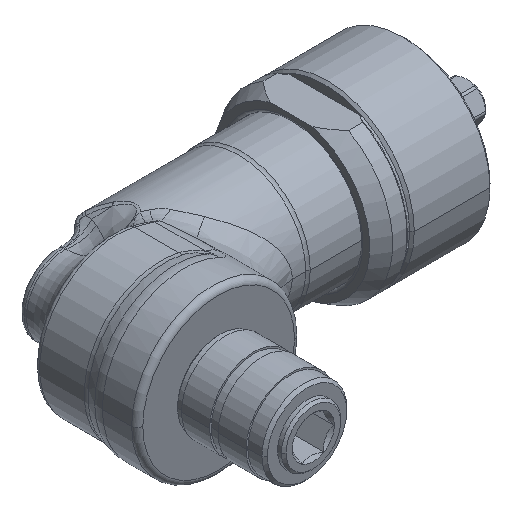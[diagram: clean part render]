
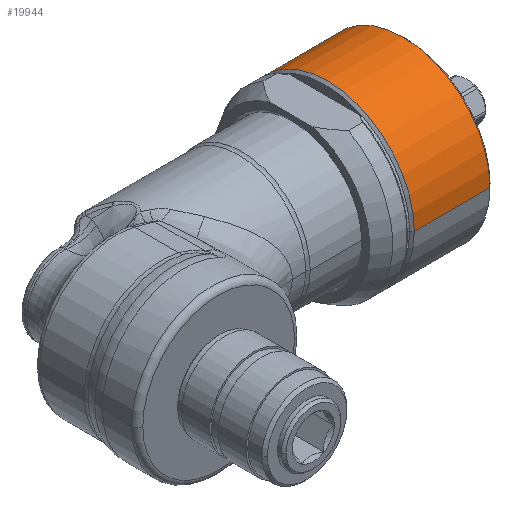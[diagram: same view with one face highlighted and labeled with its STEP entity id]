
A CAD part, isometric view. The second image highlights one B-rep face of the part: STEP entity #19944.
In plain terms, the highlighted cylindrical face has radius 15.5 mm (diameter 31 mm), a partial arc.
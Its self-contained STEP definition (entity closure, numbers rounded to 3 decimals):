
#19036=CARTESIAN_POINT('',(40.724,0.,0.));
#19037=DIRECTION('',(-1.,0.,0.));
#19038=DIRECTION('',(0.,-1.,0.));
#19039=AXIS2_PLACEMENT_3D('',#19036,#19037,#19038);
#19044=DIRECTION('',(-1.,0.,0.));
#19045=VECTOR('',#19044,13.476);
#19046=CARTESIAN_POINT('',(54.2,15.5,
0.));
#19047=LINE('974',#19046,#19045);
#19051=CARTESIAN_POINT('',(54.2,0.,0.));
#19052=DIRECTION('',(-1.,0.,0.));
#19053=DIRECTION('',(0.,-1.,0.));
#19054=AXIS2_PLACEMENT_3D('',#19051,#19052,#19053);
#19059=DIRECTION('',(-1.,0.,0.));
#19060=VECTOR('',#19059,13.476);
#19061=CARTESIAN_POINT('',(54.2,-15.5,
0.));
#19062=LINE('975',#19061,#19060);
#19839=CARTESIAN_POINT('',(54.2,-15.5,0.));
#19840=CARTESIAN_POINT('',(54.2,15.5,0.));
#19841=VERTEX_POINT('',#19839);
#19842=VERTEX_POINT('',#19840);
#19855=CARTESIAN_POINT('',(40.724,15.5,0.));
#19856=CARTESIAN_POINT('',(40.724,-15.5,0.));
#19857=VERTEX_POINT('',#19855);
#19858=VERTEX_POINT('',#19856);
#19930=CARTESIAN_POINT('',(55.825,0.,0.));
#19931=DIRECTION('',(-1.,0.,0.));
#19932=DIRECTION('',(0.,1.,0.));
#19933=AXIS2_PLACEMENT_3D('',#19930,#19931,#19932);
#19934=CYLINDRICAL_SURFACE('385',#19933,15.5);
#19936=ORIENTED_EDGE('963',*,*,#19935,.T.);
#19938=ORIENTED_EDGE('974',*,*,#19937,.F.);
#19939=ORIENTED_EDGE('950',*,*,#19913,.F.);
#19941=ORIENTED_EDGE('975',*,*,#19940,.T.);
#19942=EDGE_LOOP('385',(#19936,#19938,#19939,#19941));
#19943=FACE_OUTER_BOUND('385',#19942,.F.);
#19040=CIRCLE('963',#19039,15.5);
#19055=CIRCLE('950',#19054,15.5);
#19913=EDGE_CURVE('950',#19841,#19842,#19055,.T.);
#19935=EDGE_CURVE('963',#19858,#19857,#19040,.T.);
#19937=EDGE_CURVE('974',#19842,#19857,#19047,.T.);
#19940=EDGE_CURVE('975',#19841,#19858,#19062,.T.);
#19944=ADVANCED_FACE('385',(#19943),#19934,.T.);
